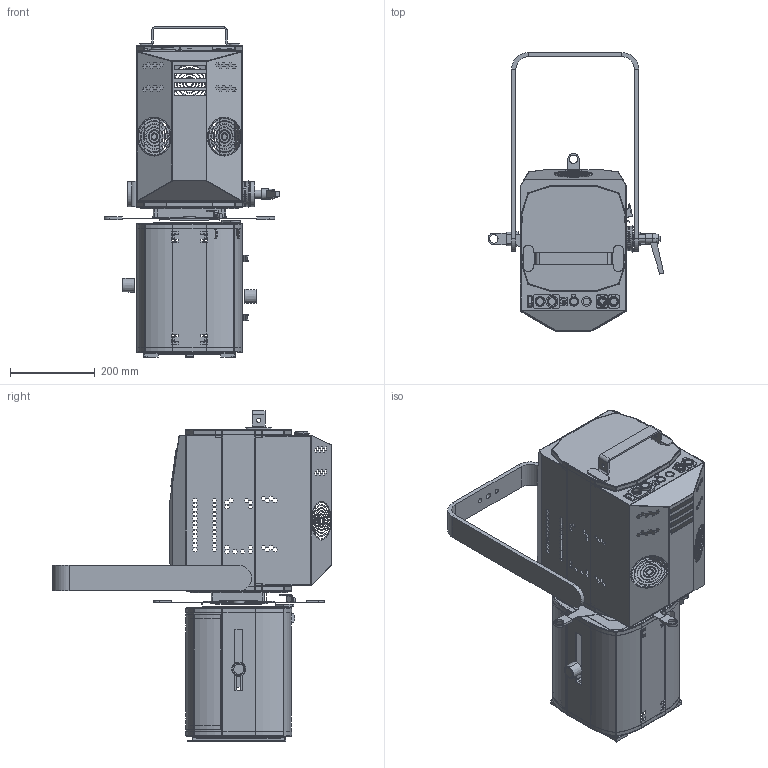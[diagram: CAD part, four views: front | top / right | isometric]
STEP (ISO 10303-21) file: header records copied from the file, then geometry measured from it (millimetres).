
FILE_DESCRIPTION (( 'STEP AP203' ), '1' );
FILE_NAME ('_963 CHARLES.STEP', '2018-11-27T13:33:12', ( '' ), ( '' ), 'SwSTEP 2.0', 'SolidWorks 2018', '' );
FILE_SCHEMA (( 'CONFIG_CONTROL_DESIGN' ));
Products named in the file (1): _963 CHARLES
Bounding box: 415.13 x 659 x 779.71 mm (x, y, z)
Volume: 2460078.4 mm3; surface area: 2941658.9 mm2
Topology: 96 solids, 96 shells, 3379 faces, 8483 edges, 5213 vertices
Faces by surface type: plane 2401, cylinder 655, torus 169, bspline 128, cone 26
Entity records: 107596 total; most frequent: CARTESIAN_POINT 26425, ORIENTED_EDGE 16930, DIRECTION 16260, EDGE_CURVE 8465, LINE 6462, VECTOR 6462, VERTEX_POINT 5213, AXIS2_PLACEMENT_3D 4899
